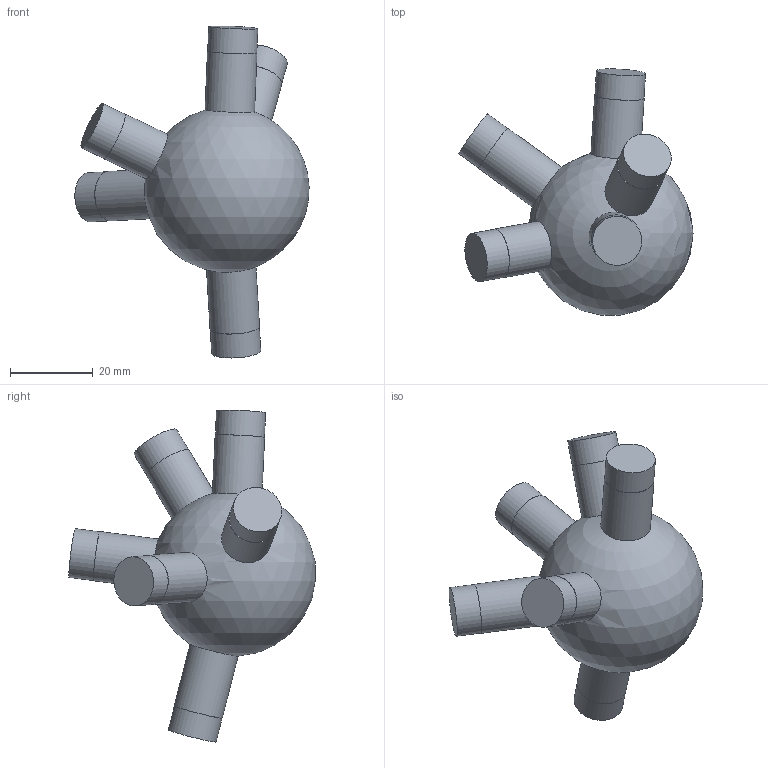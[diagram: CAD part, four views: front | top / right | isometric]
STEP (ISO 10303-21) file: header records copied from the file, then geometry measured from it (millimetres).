
FILE_DESCRIPTION(('Open CASCADE Model'),'2;1');
FILE_NAME('Open CASCADE Shape Model','2026-10-21T12:47:57',('Author'),( 'Open CASCADE'),'Open CASCADE STEP processor 7.9','Open CASCADE 7.9' ,'Unknown');
FILE_SCHEMA(('AUTOMOTIVE_DESIGN { 1 0 10303 214 1 1 1 1 }'));
Length unit declared in the file: millimetre
Products named in the file (1): Open CASCADE STEP translator 7.9 162
Bounding box: 56.7 x 59.62 x 80.36 mm (x, y, z)
Volume: 46741.6 mm3; surface area: 9537.1 mm2
Topology: 1 solids, 1 shells, 25 faces, 43 edges, 29 vertices
Faces by surface type: cylinder 12, plane 12, sphere 1
Full cylindrical faces by diameter (mm): 11.9 x6, 12 x6
Entity records: 1709 total; most frequent: CARTESIAN_POINT 736, DIRECTION 198, ORIENTED_EDGE 86, PCURVE 86, DEFINITIONAL_REPRESENTATION 86, LINE 66, VECTOR 66, AXIS2_PLACEMENT_3D 57
